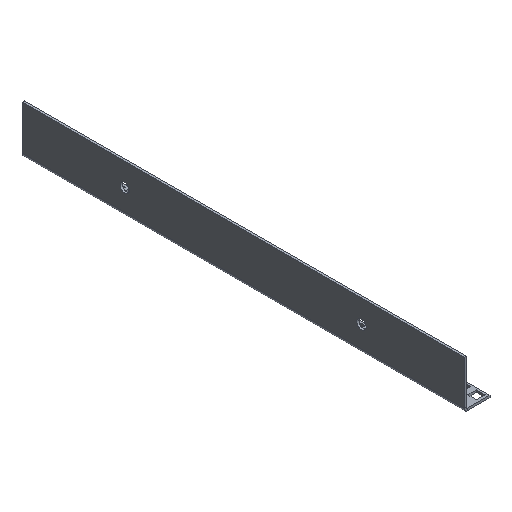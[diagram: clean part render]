
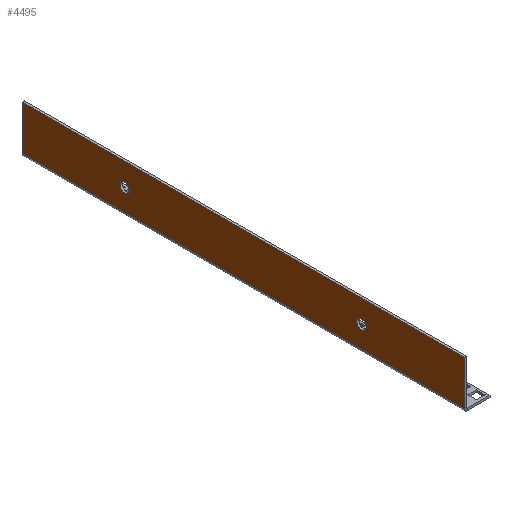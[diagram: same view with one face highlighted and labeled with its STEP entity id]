
A CAD part, isometric view. The second image highlights one B-rep face of the part: STEP entity #4495.
In plain terms, the highlighted free-form (B-spline) face has degree [1, 1] with [2, 2] control points.
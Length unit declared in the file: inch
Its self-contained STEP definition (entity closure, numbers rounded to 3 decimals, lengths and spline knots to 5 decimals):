
#79=CARTESIAN_POINT('V281',(-0.097,14.67,
   1.0));
#80=VERTEX_POINT('V281',#79);
#104=CARTESIAN_POINT('E425',(-0.097,14.67,
   1.0));
#105=CARTESIAN_POINT('E425',(-0.097,14.67,
   0.64276));
#106=CARTESIAN_POINT('E425',(-0.097,14.97938,
   0.82138));
#107=CARTESIAN_POINT('E425',(-0.097,15.28875,
   1.0));
#108=CARTESIAN_POINT('E425',(-0.097,14.97938,
   1.17862));
#109=CARTESIAN_POINT('E425',(-0.097,14.67,
   1.35724));
#110=CARTESIAN_POINT('E425',(-0.097,14.67,
   1.0));
#118=(BOUNDED_CURVE()B_SPLINE_CURVE(2,(#104,#105,#106,#107,#108,
   #109,#110),.CIRCULAR_ARC.,.T.,.U.)B_SPLINE_CURVE_WITH_KNOTS((3,
   2,2,3),(0.0,0.33333,0.66667,1.0),
   .UNSPECIFIED.)CURVE()GEOMETRIC_REPRESENTATION_ITEM()
   RATIONAL_B_SPLINE_CURVE((1.0,0.5,1.0,
   0.5,1.0,0.5,1.0))REPRESENTATION_ITEM(
   'E425'));
#119=EDGE_CURVE('E425',#80,#80,#118,.T.);
#148=CARTESIAN_POINT('V282',(-0.097,4.295,
   1.0));
#149=VERTEX_POINT('V282',#148);
#173=CARTESIAN_POINT('E426',(-0.097,4.295,
   1.0));
#174=CARTESIAN_POINT('E426',(-0.097,4.295,
   0.64276));
#175=CARTESIAN_POINT('E426',(-0.097,4.60438,
   0.82138));
#176=CARTESIAN_POINT('E426',(-0.097,4.91375,
   1.0));
#177=CARTESIAN_POINT('E426',(-0.097,4.60438,
   1.17862));
#178=CARTESIAN_POINT('E426',(-0.097,4.295,
   1.35724));
#179=CARTESIAN_POINT('E426',(-0.097,4.295,
   1.0));
#187=(BOUNDED_CURVE()B_SPLINE_CURVE(2,(#173,#174,#175,#176,#177,
   #178,#179),.CIRCULAR_ARC.,.T.,.U.)B_SPLINE_CURVE_WITH_KNOTS((3,
   2,2,3),(0.0,0.33333,0.66667,1.0),
   .UNSPECIFIED.)CURVE()GEOMETRIC_REPRESENTATION_ITEM()
   RATIONAL_B_SPLINE_CURVE((1.0,0.5,1.0,
   0.5,1.0,0.5,1.0))REPRESENTATION_ITEM(
   'E426'));
#188=EDGE_CURVE('E426',#149,#149,#187,.T.);
#4423=CARTESIAN_POINT('V272',(-0.097,19.3775,
   0.06));
#4424=VERTEX_POINT('V272',#4423);
#4425=CARTESIAN_POINT('V279',(-0.097,0.,
   0.06));
#4426=VERTEX_POINT('V279',#4425);
#4427=CARTESIAN_POINT('E415',(-0.097,19.3775,
   0.06));
#4428=CARTESIAN_POINT('E415',(-0.097,0.0,
   0.06));
#4429=QUASI_UNIFORM_CURVE('E415',1,(#4427,#4428),.POLYLINE_FORM.,.F.,
   .U.);
#4430=EDGE_CURVE('E415',#4424,#4426,#4429,.T.);
#4462=CARTESIAN_POINT('F145',(-0.097,-1.16265,
   2.1164));
#4463=CARTESIAN_POINT('F145',(-0.097,20.54015,
   2.1164));
#4464=CARTESIAN_POINT('F145',(-0.097,-1.16265,
   -0.0564));
#4465=CARTESIAN_POINT('F145',(-0.097,20.54015,
   -0.0564));
#4466=B_SPLINE_SURFACE_WITH_KNOTS('F145',1,1,((#4462,#4464),(
   #4463,#4465)),.PLANE_SURF.,.F.,.F.,.U.,(2,2),(2,2),(0.0,
   9.97747),(0.0,1.0),.UNSPECIFIED.);
#4467=ORIENTED_EDGE('E415',*,*,#4430,.T.);
#4468=CARTESIAN_POINT('V276',(-0.097,0.0,2.0));
#4469=VERTEX_POINT('V276',#4468);
#4470=CARTESIAN_POINT('E420',(-0.097,0.,
   0.06));
#4471=CARTESIAN_POINT('E420',(-0.097,0.,2.0)
   );
#4472=B_SPLINE_CURVE_WITH_KNOTS('E420',1,(#4470,#4471),
   .POLYLINE_FORM.,.F.,.U.,(2,2),(0.09643,
   0.98929),.UNSPECIFIED.);
#4473=EDGE_CURVE('E420',#4426,#4469,#4472,.T.);
#4474=ORIENTED_EDGE('E420',*,*,#4473,.T.);
#4475=CARTESIAN_POINT('V274',(-0.097,19.3775,
   2.0));
#4476=VERTEX_POINT('V274',#4475);
#4477=CARTESIAN_POINT('E409',(-0.097,0.0,2.0));
#4478=CARTESIAN_POINT('E409',(-0.097,19.3775,
   2.0));
#4479=B_SPLINE_CURVE_WITH_KNOTS('E409',1,(#4477,#4478),
   .POLYLINE_FORM.,.F.,.U.,(2,2),(0.53451,
   9.44296),.UNSPECIFIED.);
#4480=EDGE_CURVE('E409',#4469,#4476,#4479,.T.);
#4481=ORIENTED_EDGE('E409',*,*,#4480,.T.);
#4482=CARTESIAN_POINT('E406',(-0.097,19.3775,
   2.0));
#4483=CARTESIAN_POINT('E406',(-0.097,19.3775,
   0.06));
#4484=B_SPLINE_CURVE_WITH_KNOTS('E406',1,(#4482,#4483),
   .POLYLINE_FORM.,.F.,.U.,(2,2),(0.05357,
   0.94643),.UNSPECIFIED.);
#4485=EDGE_CURVE('E406',#4476,#4424,#4484,.T.);
#4486=ORIENTED_EDGE('E406',*,*,#4485,.T.);
#4487=EDGE_LOOP('F145',(#4467,#4474,#4481,#4486));
#4488=FACE_OUTER_BOUND('F145',#4487,.T.);
#4489=ORIENTED_EDGE('F147',*,*,#188,.T.);
#4490=EDGE_LOOP('F145',(#4489));
#4491=FACE_BOUND('F145',#4490,.T.);
#4492=ORIENTED_EDGE('F146',*,*,#119,.T.);
#4493=EDGE_LOOP('F145',(#4492));
#4494=FACE_BOUND('F145',#4493,.T.);
#4495=ADVANCED_FACE('F145',(#4488,#4491,#4494),#4466,.T.);
